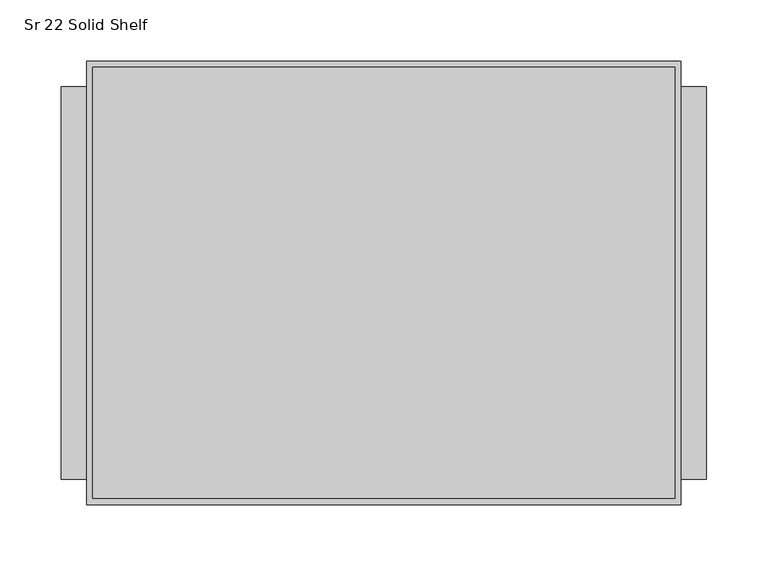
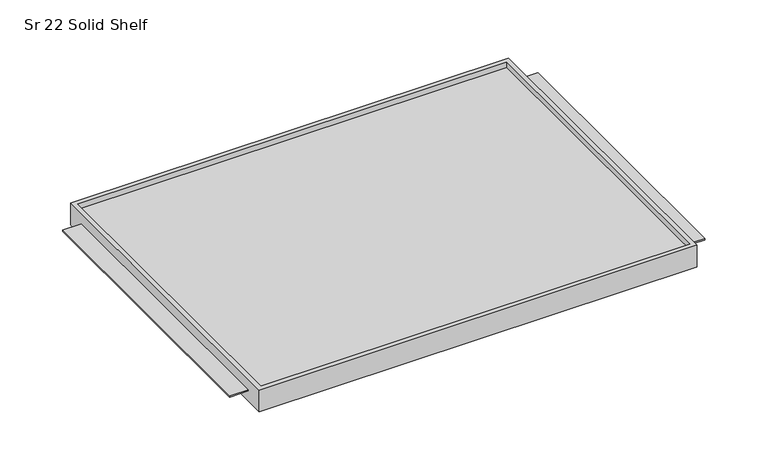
"""IFC4 building model written with IfcOpenShell, lengths in millimetres: furniture geometry, HermanMiller_Carts_CT521_CartShelf : Sr 22 Solid Shelf."""

from ifc_helpers import new_model, si_unit, frame, origin, place, context, project, spatial, polyline, outline, extrude, faceted_brep, source, transform, mapped, element, save


def sr_22_solid_shelf_9a49573a(model_context):
    return source(origin(), model_context, "Body", "SolidModel", [
        extrude(outline(polyline([(-299.9701517, -185.7375), (-320.6076517, -185.7375), (-320.6076517, 134.9375), (-299.9701517, 134.9375), (-299.9701517, -185.7375)])), frame((0.0, 0.0, 2239.16875), z_axis=(0.0, 0.0, 1.0), x_axis=(1.0, 0.0, 0.0)), (0.0, 0.0, 1.0), 1.5875),
        extrude(outline(polyline([(206.4423483, 134.9375), (206.4423483, -185.7375), (180.7248483, -185.7375), (180.7248483, 134.9375), (206.4423483, 134.9375)])), frame((0.0, 0.0, 2239.16875), z_axis=(0.0, 0.0, 1.0), x_axis=(1.0, 0.0, 0.0)), (0.0, 0.0, 1.0), 1.5875),
        faceted_brep([(185.8048483, -206.375, 2252.6625), (-299.9701517, -206.375, 2252.6625), (-299.9701517, -206.375, 2227.2625), (185.8048483, -206.375, 2227.2625), (185.8048483, 155.575, 2252.6625), (185.8048483, 155.575, 2227.2625), (-299.9701517, 155.575, 2227.2625), (-299.9701517, 155.575, 2252.6625), (-294.8901517, 150.495, 2252.6625), (180.7248483, 150.495, 2252.6625), (180.7248483, -201.295, 2252.6625), (-294.8901517, -201.295, 2252.6625), (180.7248483, 150.495, 2246.3125), (-294.8901517, 150.495, 2246.3125), (-294.8901517, -201.295, 2246.3125), (180.7248483, -201.295, 2246.3125)], [[[0, 1, 2, 3]], [[4, 5, 6, 7]], [[1, 0, 4, 7], [8, 9, 10, 11]], [[2, 1, 7, 6]], [[3, 2, 6, 5]], [[0, 3, 5, 4]], [[12, 13, 14, 15]], [[13, 12, 9, 8]], [[14, 13, 8, 11]], [[15, 14, 11, 10]], [[12, 15, 10, 9]]]),
    ])


if __name__ == "__main__":
    model = new_model("IFC4")
    model_context = context("Model", 3, world=origin())
    ifc_project = project(units=[si_unit("LENGTHUNIT", "METRE", prefix="MILLI")], contexts=[model_context])
    site = spatial("IfcSite", under=ifc_project)
    building = spatial("IfcBuilding", under=site)
    placement = place(None, origin())
    sr_22_solid_shelf_shape = sr_22_solid_shelf_9a49573a(model_context)
    element("IfcFurniture", 1, ObjectType="HermanMiller_Carts_CT521_CartShelf : Sr 22 Solid Shelf", at=placement, inside=building, context=model_context, shape_type="MappedRepresentation", body=[
        mapped(sr_22_solid_shelf_shape, transform((0.0, 0.0, 0.0), x_axis=(1.0, 0.0, 0.0), y_axis=(0.0, 1.0, 0.0), z_axis=(0.0, 0.0, 1.0))),
    ])
    save(model, "model.ifc")
